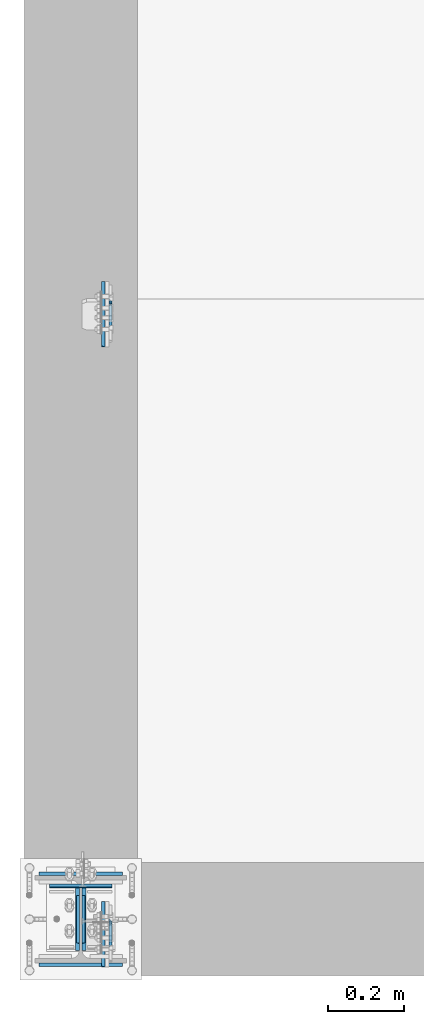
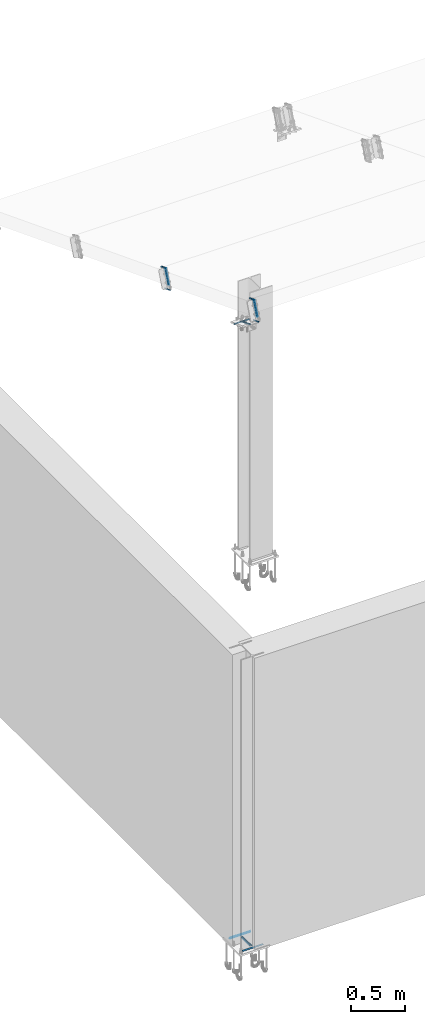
# One storey, part 10 of 72: 24 fasteners.
"""IFC4 building model written with IfcOpenShell, lengths in metres."""

from ifc_helpers import new_model, si_unit, frame, origin_with_axes, place, context, project, spatial, polyline, outline, extrude, type_object, element, save


model = new_model("IFC4")

# Units and contexts
model_context = context("Model", 3, precision=1e-05, world=origin_with_axes())
ifc_project = project(units=[si_unit("LENGTHUNIT", "METRE"), si_unit("AREAUNIT", "SQUARE_METRE"), si_unit("VOLUMEUNIT", "CUBIC_METRE"), si_unit("MASSUNIT", "GRAM", prefix="KILO"), si_unit("TIMEUNIT", "SECOND"), si_unit("PLANEANGLEUNIT", "RADIAN"), si_unit("SOLIDANGLEUNIT", "STERADIAN"), si_unit("THERMODYNAMICTEMPERATUREUNIT", "DEGREE_CELSIUS")], contexts=[model_context])

# Site, building, storey
placement_1 = place(None, origin_with_axes())
site = spatial("IfcSite", under=ifc_project, at=placement_1, Name="Italia", CompositionType="ELEMENT")
building = spatial("IfcBuilding", under=site, at=placement_1, Name="Uffici", CompositionType="ELEMENT")
storey = spatial("IfcBuildingStorey", under=building, at=placement_1, Name="Storey 0", CompositionType="ELEMENT", Elevation=0.0)

# Fasteners
fastener_type_1 = type_object("IfcFastenerType", Name="Collegamento -026_-027", PredefinedType="WELD")
placement_2 = place(placement_1, origin_with_axes())
fastener_1_placement = place(placement_2, origin_with_axes())
element("IfcFastener", 1, at=fastener_1_placement, inside=storey, type_object=fastener_type_1, Name="Collegamento -026_-027", context=model_context, shape_type="SweptSolid", body=[
    extrude(outline(polyline([(0.0, 0.0), (-0.00717336, 0.00695825), (0.0, 0.00695825), (0.0, 0.0)])), frame((0.07495, 1.57748, 6.43575), z_axis=(0.0, 0.361462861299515, 0.932386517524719), x_axis=(-1.0, 0.0, 0.0)), (0.0, 0.0, 1.0), 0.1591),
])
fastener_type_2 = type_object("IfcFastenerType", Name="Collegamento -026_-027", PredefinedType="WELD")
fastener_2_placement = place(placement_2, origin_with_axes())
element("IfcFastener", 2, at=fastener_2_placement, inside=storey, type_object=fastener_type_2, Name="Collegamento -026_-027", context=model_context, shape_type="SweptSolid", body=[
    extrude(outline(polyline([(0.0, 0.0), (0.00717336, -0.00695813), (0.0, -0.00695813), (0.0, 0.0)])), frame((0.07495, 1.61689, 6.59111), z_axis=(0.0, -0.36146154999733, -0.932386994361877), x_axis=(1.0, 0.0, 0.0)), (0.0, 0.0, 1.0), 0.1591),
])
fastener_type_3 = type_object("IfcFastenerType", Name="Collegamento -026_-027", PredefinedType="WELD")
fastener_3_placement = place(placement_2, origin_with_axes())
element("IfcFastener", 3, at=fastener_3_placement, inside=storey, type_object=fastener_type_3, Name="Collegamento -026_-027", context=model_context, shape_type="SweptSolid", body=[
    extrude(outline(polyline([(0.0, 0.0), (-0.00717336, 0.00695825), (0.0, 0.00695825), (0.0, 0.0)])), frame((0.07495, 1.57748, 6.43575), z_axis=(0.0, 0.361462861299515, 0.932386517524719), x_axis=(-1.0, 0.0, 0.0)), (0.0, 0.0, 1.0), 0.1591),
])
fastener_type_4 = type_object("IfcFastenerType", Name="Collegamento -026_-027", PredefinedType="WELD")
fastener_4_placement = place(placement_2, origin_with_axes())
element("IfcFastener", 4, at=fastener_4_placement, inside=storey, type_object=fastener_type_4, Name="Collegamento -026_-027", context=model_context, shape_type="SweptSolid", body=[
    extrude(outline(polyline([(0.0, 0.0), (0.00717336, -0.00695813), (0.0, -0.00695813), (0.0, 0.0)])), frame((0.07495, 1.61689, 6.59111), z_axis=(0.0, -0.36146154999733, -0.932386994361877), x_axis=(1.0, 0.0, 0.0)), (0.0, 0.0, 1.0), 0.1591),
])
fastener_type_5 = type_object("IfcFastenerType", Name="Collegamento -026_-027", PredefinedType="WELD")
fastener_5_placement = place(placement_2, origin_with_axes())
element("IfcFastener", 5, at=fastener_5_placement, inside=storey, type_object=fastener_type_5, Name="Collegamento -026_-027", context=model_context, shape_type="SweptSolid", body=[
    extrude(outline(polyline([(0.0, 0.0), (0.00937336, -0.00909233), (0.0, -0.00909233), (0.0, 0.0)])), frame((0.05495, 1.60375, 6.39188), z_axis=(0.0, -0.932386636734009, 0.361462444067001), x_axis=(1.0, 0.0, 0.0)), (0.0, 0.0, 1.0), 0.1001),
])
fastener_type_6 = type_object("IfcFastenerType", Name="Collegamento -026_-027", PredefinedType="WELD")
fastener_6_placement = place(placement_2, origin_with_axes())
element("IfcFastener", 6, at=fastener_6_placement, inside=storey, type_object=fastener_type_6, Name="Collegamento -026_-027", context=model_context, shape_type="SweptSolid", body=[
    extrude(outline(polyline([(0.0, 0.0), (-0.00937336, 0.00909233), (0.0, 0.00909233), (0.0, 0.0)])), frame((0.05495, 1.5834, 6.61633), z_axis=(0.0, 0.932386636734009, -0.361462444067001), x_axis=(-1.0, 0.0, 0.0)), (0.0, 0.0, 1.0), 0.1001),
])
fastener_type_7 = type_object("IfcFastenerType", Name="Collegamenti 0001_0101 0002_0102 0003_0103 0004_0104 0005_0105 0011_0111 0012_0112 0013_0113 0014_0114 0015_0115", PredefinedType="WELD")
fastener_7_placement = place(placement_2, origin_with_axes())
element("IfcFastener", 7, at=fastener_7_placement, inside=storey, type_object=fastener_type_7, Name="Collegamenti 0001_0101 0002_0102 0003_0103 0004_0104 0005_0105 0011_0111 0012_0112 0013_0113 0014_0114 0015_0115", context=model_context, shape_type="SweptSolid", body=[
    extrude(outline(polyline([(0.0, 0.0), (0.00986816, 0.0101734), (0.00986816, 0.0), (0.0, 0.0)])), frame((0.0135682, -0.08205, 0.01995), z_axis=(5.6753361e-08, 1.0, 0.0), x_axis=(-1.0, 5.6753361e-08, 0.0)), (0.0, 0.0, 1.0), 0.1641),
])
fastener_type_8 = type_object("IfcFastenerType", Name="Collegamenti 0001_0101 0002_0102 0003_0103 0004_0104 0005_0105 0011_0111 0012_0112 0013_0113 0014_0114 0015_0115", PredefinedType="WELD")
fastener_8_placement = place(placement_2, origin_with_axes())
element("IfcFastener", 8, at=fastener_8_placement, inside=storey, type_object=fastener_type_8, Name="Collegamenti 0001_0101 0002_0102 0003_0103 0004_0104 0005_0105 0011_0111 0012_0112 0013_0113 0014_0114 0015_0115", context=model_context, shape_type="SweptSolid", body=[
    extrude(outline(polyline([(0.0, 0.0), (0.00986816, 0.0101734), (0.00986816, 0.0), (0.0, 0.0)])), frame((-0.0135682, 0.08205, 0.01995), z_axis=(-5.6753361e-08, -1.0, 0.0), x_axis=(1.0, -5.6753361e-08, 0.0)), (0.0, 0.0, 1.0), 0.1641),
])
fastener_type_9 = type_object("IfcFastenerType", Name="Collegamenti 0001_0101 0002_0102 0003_0103 0004_0104 0005_0105 0011_0111 0012_0112 0013_0113 0014_0114 0015_0115", PredefinedType="WELD")
fastener_9_placement = place(placement_2, origin_with_axes())
element("IfcFastener", 9, at=fastener_9_placement, inside=storey, type_object=fastener_type_9, Name="Collegamenti 0001_0101 0002_0102 0003_0103 0004_0104 0005_0105 0011_0111 0012_0112 0013_0113 0014_0114 0015_0115", context=model_context, shape_type="SweptSolid", body=[
    extrude(outline(polyline([(0.0, 0.0), (0.00986816, 0.0101734), (0.00986816, 0.0), (0.0, 0.0)])), frame((0.11005, 0.124818, 0.01995), z_axis=(-1.0, 6.7701784e-08, 0.0), x_axis=(-6.7701784e-08, -1.0, 0.0)), (0.0, 0.0, 1.0), 0.2201),
])
fastener_type_10 = type_object("IfcFastenerType", Name="Collegamenti 0001_0101 0002_0102 0003_0103 0004_0104 0005_0105 0011_0111 0012_0112 0013_0113 0014_0114 0015_0115", PredefinedType="WELD")
fastener_10_placement = place(placement_2, origin_with_axes())
element("IfcFastener", 10, at=fastener_10_placement, inside=storey, type_object=fastener_type_10, Name="Collegamenti 0001_0101 0002_0102 0003_0103 0004_0104 0005_0105 0011_0111 0012_0112 0013_0113 0014_0114 0015_0115", context=model_context, shape_type="SweptSolid", body=[
    extrude(outline(polyline([(0.0, 0.0), (0.00986816, 0.0101734), (0.00986816, 0.0), (0.0, 0.0)])), frame((-0.11005, -0.124818, 0.01995), z_axis=(1.0, -6.7701784e-08, 0.0), x_axis=(6.7701784e-08, 1.0, 0.0)), (0.0, 0.0, 1.0), 0.2201),
])
fastener_type_11 = type_object("IfcFastenerType", Name="Collegamenti 0001_0101 0002_0102 0003_0103 0004_0104 0005_0105 0011_0111 0012_0112 0013_0113 0014_0114 0015_0115", PredefinedType="WELD")
fastener_11_placement = place(placement_2, origin_with_axes())
element("IfcFastener", 11, at=fastener_11_placement, inside=storey, type_object=fastener_type_11, Name="Collegamenti 0001_0101 0002_0102 0003_0103 0004_0104 0005_0105 0011_0111 0012_0112 0013_0113 0014_0114 0015_0115", context=model_context, shape_type="SweptSolid", body=[
    extrude(outline(polyline([(0.0, 0.0), (0.00986816, 0.0101734), (0.00986816, 0.0), (0.0, 0.0)])), frame((0.0135682, -0.08205, 0.01995), z_axis=(5.6753361e-08, 1.0, 0.0), x_axis=(-1.0, 5.6753361e-08, 0.0)), (0.0, 0.0, 1.0), 0.1641),
])
fastener_type_12 = type_object("IfcFastenerType", Name="Collegamenti 0001_0101 0002_0102 0003_0103 0004_0104 0005_0105 0011_0111 0012_0112 0013_0113 0014_0114 0015_0115", PredefinedType="WELD")
fastener_12_placement = place(placement_2, origin_with_axes())
element("IfcFastener", 12, at=fastener_12_placement, inside=storey, type_object=fastener_type_12, Name="Collegamenti 0001_0101 0002_0102 0003_0103 0004_0104 0005_0105 0011_0111 0012_0112 0013_0113 0014_0114 0015_0115", context=model_context, shape_type="SweptSolid", body=[
    extrude(outline(polyline([(0.0, 0.0), (0.00986816, 0.0101734), (0.00986816, 0.0), (0.0, 0.0)])), frame((-0.0135682, 0.08205, 0.01995), z_axis=(-5.6753361e-08, -1.0, 0.0), x_axis=(1.0, -5.6753361e-08, 0.0)), (0.0, 0.0, 1.0), 0.1641),
])
fastener_type_13 = type_object("IfcFastenerType", Name="Collegamento 0201_0101", PredefinedType="WELD")
fastener_13_placement = place(placement_2, origin_with_axes())
element("IfcFastener", 13, at=fastener_13_placement, inside=storey, type_object=fastener_type_13, Name="Collegamento 0201_0101", context=model_context, shape_type="SweptSolid", body=[
    extrude(outline(polyline([(0.0, 0.0), (-0.0103468, -0.00475407), (-0.00739191, 0.00286627), (0.0, 0.0)])), frame((-0.08205, 0.0928638, 6.952), z_axis=(1.0, 0.0, 0.0), x_axis=(0.0, 1.0, 0.0)), (0.0, 0.0, 1.0), 0.1641),
])
fastener_type_14 = type_object("IfcFastenerType", Name="Collegamento 0201_0101", PredefinedType="WELD")
fastener_14_placement = place(placement_2, origin_with_axes())
element("IfcFastener", 14, at=fastener_14_placement, inside=storey, type_object=fastener_type_14, Name="Collegamento 0201_0101", context=model_context, shape_type="SweptSolid", body=[
    extrude(outline(polyline([(0.0, 0.0), (-0.00792816, -0.00817299), (-0.00792816, 0.0), (0.0, 0.0)])), frame((0.0108782, 0.0620796, 6.96393), z_axis=(-4.8970286e-08, -0.932361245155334, 0.361528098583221), x_axis=(1.0, -5.2522868e-08, 0.0)), (0.0, 0.0, 1.0), 0.133127),
])
fastener_type_15 = type_object("IfcFastenerType", Name="Collegamento 0201_0101", PredefinedType="WELD")
fastener_15_placement = place(placement_2, origin_with_axes())
element("IfcFastener", 15, at=fastener_15_placement, inside=storey, type_object=fastener_type_15, Name="Collegamento 0201_0101", context=model_context, shape_type="SweptSolid", body=[
    extrude(outline(polyline([(0.0, 0.0), (-0.00792816, -0.00817299), (-0.00792816, 0.0), (0.0, 0.0)])), frame((-0.0108782, -0.0620427, 7.01206), z_axis=(4.1974531e-08, 0.932361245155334, -0.361528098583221), x_axis=(-1.0, 4.50196e-08, 0.0)), (0.0, 0.0, 1.0), 0.133127),
])
fastener_type_16 = type_object("IfcFastenerType", Name="Collegamento 0201_0101", PredefinedType="WELD")
fastener_16_placement = place(placement_2, origin_with_axes())
element("IfcFastener", 16, at=fastener_16_placement, inside=storey, type_object=fastener_type_16, Name="Collegamento 0201_0101", context=model_context, shape_type="SweptSolid", body=[
    extrude(outline(polyline([(0.0, 0.0), (-0.0103468, -0.00475407), (-0.00739191, 0.00286627), (0.0, 0.0)])), frame((-0.08205, 0.0928638, 6.952), z_axis=(1.0, 0.0, 0.0), x_axis=(0.0, 1.0, 0.0)), (0.0, 0.0, 1.0), 0.1641),
])
fastener_type_17 = type_object("IfcFastenerType", Name="Collegamento 0201_0101", PredefinedType="WELD")
fastener_17_placement = place(placement_2, origin_with_axes())
element("IfcFastener", 17, at=fastener_17_placement, inside=storey, type_object=fastener_type_17, Name="Collegamento 0201_0101", context=model_context, shape_type="SweptSolid", body=[
    extrude(outline(polyline([(0.0, 0.0), (-0.00792816, -0.00817299), (-0.00792816, 0.0), (0.0, 0.0)])), frame((0.0108782, 0.0620796, 6.96393), z_axis=(-4.8970286e-08, -0.932361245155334, 0.361528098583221), x_axis=(1.0, -5.2522868e-08, 0.0)), (0.0, 0.0, 1.0), 0.133127),
])
fastener_type_18 = type_object("IfcFastenerType", Name="Collegamento 0201_0101", PredefinedType="WELD")
fastener_18_placement = place(placement_2, origin_with_axes())
element("IfcFastener", 18, at=fastener_18_placement, inside=storey, type_object=fastener_type_18, Name="Collegamento 0201_0101", context=model_context, shape_type="SweptSolid", body=[
    extrude(outline(polyline([(0.0, 0.0), (-0.00792816, -0.00817299), (-0.00792816, 0.0), (0.0, 0.0)])), frame((-0.0108782, -0.0620427, 7.01206), z_axis=(4.1974531e-08, 0.932361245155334, -0.361528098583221), x_axis=(-1.0, 4.50196e-08, 0.0)), (0.0, 0.0, 1.0), 0.133127),
])
fastener_type_19 = type_object("IfcFastenerType", Name="Collegamento 0201_0202", PredefinedType="WELD")
fastener_19_placement = place(placement_2, origin_with_axes())
element("IfcFastener", 19, at=fastener_19_placement, inside=storey, type_object=fastener_type_19, Name="Collegamento 0201_0202", context=model_context, shape_type="SweptSolid", body=[
    extrude(outline(polyline([(0.0, 0.0), (-0.00717336, 0.00695801), (0.0, 0.00695801), (0.0, 0.0)])), frame((0.07495, -0.055849, 7.06908), z_axis=(0.0, 0.3614621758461, 0.932386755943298), x_axis=(-1.0, 0.0, 0.0)), (0.0, 0.0, 1.0), 0.1591),
])
fastener_type_20 = type_object("IfcFastenerType", Name="Collegamento 0201_0202", PredefinedType="WELD")
fastener_20_placement = place(placement_2, origin_with_axes())
element("IfcFastener", 20, at=fastener_20_placement, inside=storey, type_object=fastener_type_20, Name="Collegamento 0201_0202", context=model_context, shape_type="SweptSolid", body=[
    extrude(outline(polyline([(0.0, 0.0), (0.00717336, -0.00695825), (0.0, -0.00695825), (0.0, 0.0)])), frame((0.07495, -0.0164439, 7.22444), z_axis=(0.0, -0.361460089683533, -0.932387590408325), x_axis=(1.0, 0.0, 0.0)), (0.0, 0.0, 1.0), 0.1591),
])
fastener_type_21 = type_object("IfcFastenerType", Name="Collegamento 0201_0202", PredefinedType="WELD")
fastener_21_placement = place(placement_2, origin_with_axes())
element("IfcFastener", 21, at=fastener_21_placement, inside=storey, type_object=fastener_type_21, Name="Collegamento 0201_0202", context=model_context, shape_type="SweptSolid", body=[
    extrude(outline(polyline([(0.0, 0.0), (-0.00717336, 0.00695801), (0.0, 0.00695801), (0.0, 0.0)])), frame((0.07495, -0.055849, 7.06908), z_axis=(0.0, 0.3614621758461, 0.932386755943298), x_axis=(-1.0, 0.0, 0.0)), (0.0, 0.0, 1.0), 0.1591),
])
fastener_type_22 = type_object("IfcFastenerType", Name="Collegamento 0201_0202", PredefinedType="WELD")
fastener_22_placement = place(placement_2, origin_with_axes())
element("IfcFastener", 22, at=fastener_22_placement, inside=storey, type_object=fastener_type_22, Name="Collegamento 0201_0202", context=model_context, shape_type="SweptSolid", body=[
    extrude(outline(polyline([(0.0, 0.0), (0.00717336, -0.00695825), (0.0, -0.00695825), (0.0, 0.0)])), frame((0.07495, -0.0164439, 7.22444), z_axis=(0.0, -0.361460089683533, -0.932387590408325), x_axis=(1.0, 0.0, 0.0)), (0.0, 0.0, 1.0), 0.1591),
])
fastener_type_23 = type_object("IfcFastenerType", Name="Collegamento 0201_0202", PredefinedType="WELD")
fastener_23_placement = place(placement_2, origin_with_axes())
element("IfcFastener", 23, at=fastener_23_placement, inside=storey, type_object=fastener_type_23, Name="Collegamento 0201_0202", context=model_context, shape_type="SweptSolid", body=[
    extrude(outline(polyline([(0.0, 0.0), (0.00937336, -0.00909233), (0.0, -0.00909233), (0.0, 0.0)])), frame((0.05495, -0.0295861, 7.02522), z_axis=(0.0, -0.932386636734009, 0.361462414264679), x_axis=(1.0, 0.0, 0.0)), (0.0, 0.0, 1.0), 0.1001),
])
fastener_type_24 = type_object("IfcFastenerType", Name="Collegamento 0201_0202", PredefinedType="WELD")
fastener_24_placement = place(placement_2, origin_with_axes())
element("IfcFastener", 24, at=fastener_24_placement, inside=storey, type_object=fastener_type_24, Name="Collegamento 0201_0202", context=model_context, shape_type="SweptSolid", body=[
    extrude(outline(polyline([(0.0, 0.0), (-0.00937336, 0.00909233), (0.0, 0.00909233), (0.0, 0.0)])), frame((0.05495, -0.049933, 7.24966), z_axis=(0.0, 0.932386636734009, -0.361462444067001), x_axis=(-1.0, 0.0, 0.0)), (0.0, 0.0, 1.0), 0.1001),
])

save(model, "model.ifc")
